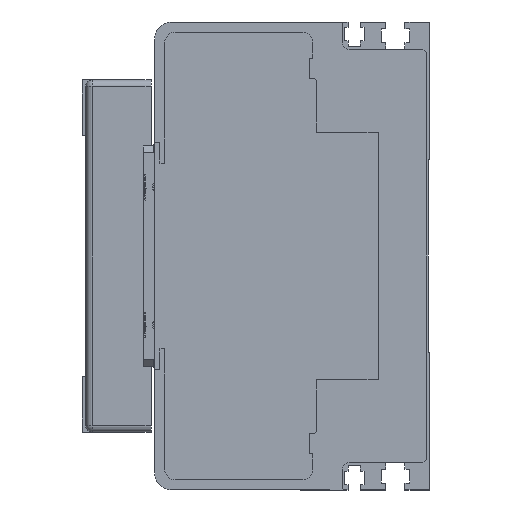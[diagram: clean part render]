
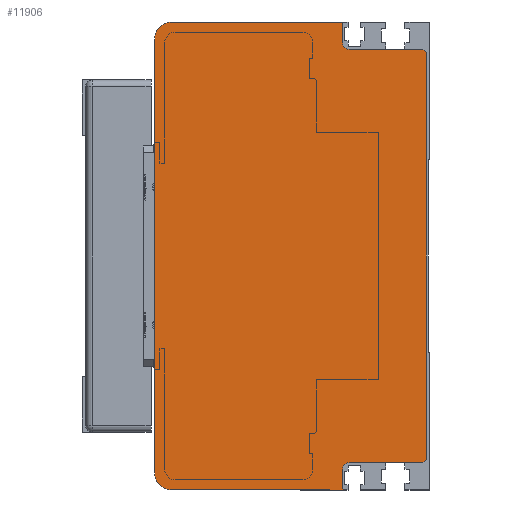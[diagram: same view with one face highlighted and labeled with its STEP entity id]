
A CAD part, left-side view. The second image highlights one B-rep face of the part: STEP entity #11906.
In plain terms, the highlighted planar face has unit normal (-1, 0, 0) as drawn and (0, 0, -1) by its records, which use the part's own axes.
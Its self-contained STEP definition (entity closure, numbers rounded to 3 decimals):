
#957=FACE_OUTER_BOUND('',#1678,.T.);
#1678=EDGE_LOOP('',(#8277,#8278,#8279,#8280,#8281,#8282,#8283,#8284,#8285,
#8286,#8287,#8288,#8289,#8290));
#2456=CIRCLE('',#12766,2.);
#2457=CIRCLE('',#12767,5.);
#2458=CIRCLE('',#12768,5.);
#2459=CIRCLE('',#12769,2.);
#2734=LINE('',#16943,#3877);
#2735=LINE('',#16945,#3878);
#2736=LINE('',#16947,#3879);
#2737=LINE('',#16949,#3880);
#2738=LINE('',#16953,#3881);
#2739=LINE('',#16955,#3882);
#2740=LINE('',#16959,#3883);
#2741=LINE('',#16963,#3884);
#2742=LINE('',#16965,#3885);
#2743=LINE('',#16968,#3886);
#3877=VECTOR('',#13969,1.414);
#3878=VECTOR('',#13970,118.);
#3879=VECTOR('',#13971,1.414);
#3880=VECTOR('',#13972,21.3);
#3881=VECTOR('',#13975,6.);
#3882=VECTOR('',#13976,49.7);
#3883=VECTOR('',#13979,126.);
#3884=VECTOR('',#13982,49.7);
#3885=VECTOR('',#13983,6.);
#3886=VECTOR('',#13986,21.3);
#5090=VERTEX_POINT('',#16941);
#5091=VERTEX_POINT('',#16942);
#5092=VERTEX_POINT('',#16944);
#5093=VERTEX_POINT('',#16946);
#5094=VERTEX_POINT('',#16948);
#5095=VERTEX_POINT('',#16950);
#5096=VERTEX_POINT('',#16952);
#5097=VERTEX_POINT('',#16954);
#5098=VERTEX_POINT('',#16956);
#5099=VERTEX_POINT('',#16958);
#5100=VERTEX_POINT('',#16960);
#5101=VERTEX_POINT('',#16962);
#5102=VERTEX_POINT('',#16964);
#5103=VERTEX_POINT('',#16966);
#6340=EDGE_CURVE('',#5090,#5091,#2734,.T.);
#6341=EDGE_CURVE('',#5090,#5092,#2735,.T.);
#6342=EDGE_CURVE('',#5093,#5092,#2736,.T.);
#6343=EDGE_CURVE('',#5093,#5094,#2737,.T.);
#6344=EDGE_CURVE('',#5095,#5094,#2456,.T.);
#6345=EDGE_CURVE('',#5095,#5096,#2738,.T.);
#6346=EDGE_CURVE('',#5096,#5097,#2739,.T.);
#6347=EDGE_CURVE('',#5097,#5098,#2457,.T.);
#6348=EDGE_CURVE('',#5098,#5099,#2740,.T.);
#6349=EDGE_CURVE('',#5099,#5100,#2458,.T.);
#6350=EDGE_CURVE('',#5100,#5101,#2741,.T.);
#6351=EDGE_CURVE('',#5101,#5102,#2742,.T.);
#6352=EDGE_CURVE('',#5103,#5102,#2459,.T.);
#6353=EDGE_CURVE('',#5103,#5091,#2743,.T.);
#8277=ORIENTED_EDGE('',*,*,#6340,.F.);
#8278=ORIENTED_EDGE('',*,*,#6341,.T.);
#8279=ORIENTED_EDGE('',*,*,#6342,.F.);
#8280=ORIENTED_EDGE('',*,*,#6343,.T.);
#8281=ORIENTED_EDGE('',*,*,#6344,.F.);
#8282=ORIENTED_EDGE('',*,*,#6345,.T.);
#8283=ORIENTED_EDGE('',*,*,#6346,.T.);
#8284=ORIENTED_EDGE('',*,*,#6347,.T.);
#8285=ORIENTED_EDGE('',*,*,#6348,.T.);
#8286=ORIENTED_EDGE('',*,*,#6349,.T.);
#8287=ORIENTED_EDGE('',*,*,#6350,.T.);
#8288=ORIENTED_EDGE('',*,*,#6351,.T.);
#8289=ORIENTED_EDGE('',*,*,#6352,.F.);
#8290=ORIENTED_EDGE('',*,*,#6353,.T.);
#11320=PLANE('',#12765);
#11906=ADVANCED_FACE('',(#957),#11320,.T.);
#12765=AXIS2_PLACEMENT_3D('',#16940,#13967,#13968);
#12766=AXIS2_PLACEMENT_3D('',#16951,#13973,#13974);
#12767=AXIS2_PLACEMENT_3D('',#16957,#13977,#13978);
#12768=AXIS2_PLACEMENT_3D('',#16961,#13980,#13981);
#12769=AXIS2_PLACEMENT_3D('',#16967,#13984,#13985);
#13967=DIRECTION('center_axis',(0.,0.,-1.));
#13968=DIRECTION('ref_axis',(0.,-1.,0.));
#13969=DIRECTION('',(0.707,0.707,0.));
#13970=DIRECTION('',(-1.,0.,0.));
#13971=DIRECTION('',(0.707,-0.707,0.));
#13972=DIRECTION('',(0.,1.,0.));
#13973=DIRECTION('center_axis',(0.,0.,-1.));
#13974=DIRECTION('ref_axis',(0.707,0.707,0.));
#13975=DIRECTION('',(-1.,0.,0.));
#13976=DIRECTION('',(0.,1.,0.));
#13977=DIRECTION('center_axis',(0.,0.,-1.));
#13978=DIRECTION('ref_axis',(-1.,0.,0.));
#13979=DIRECTION('',(1.,0.,0.));
#13980=DIRECTION('center_axis',(0.,0.,-1.));
#13981=DIRECTION('ref_axis',(0.,1.,0.));
#13982=DIRECTION('',(0.,-1.,0.));
#13983=DIRECTION('',(-1.,0.,0.));
#13984=DIRECTION('center_axis',(0.,0.,-1.));
#13985=DIRECTION('ref_axis',(-0.707,0.707,0.));
#13986=DIRECTION('',(0.,-1.,0.));
#16940=CARTESIAN_POINT('Origin',(-29.,-60.,-700.));
#16941=CARTESIAN_POINT('',(66.,-74.,-700.));
#16942=CARTESIAN_POINT('',(67.,-73.,-700.));
#16943=CARTESIAN_POINT('',(46.,-94.,-700.));
#16944=CARTESIAN_POINT('',(-52.,-74.,-700.));
#16945=CARTESIAN_POINT('',(-11.,-74.,-700.));
#16946=CARTESIAN_POINT('',(-53.,-73.,-700.));
#16947=CARTESIAN_POINT('',(-50.,-76.,-700.));
#16948=CARTESIAN_POINT('',(-53.,-51.7,-700.));
#16949=CARTESIAN_POINT('',(-53.,-67.,-700.));
#16950=CARTESIAN_POINT('',(-55.,-49.7,-700.));
#16951=CARTESIAN_POINT('Origin',(-55.,-51.7,-700.));
#16952=CARTESIAN_POINT('',(-61.,-49.7,-700.));
#16953=CARTESIAN_POINT('',(-41.,-49.7,-700.));
#16954=CARTESIAN_POINT('',(-61.,0.,-700.));
#16955=CARTESIAN_POINT('',(-61.,-51.25,-700.));
#16956=CARTESIAN_POINT('',(-56.,5.,-700.));
#16957=CARTESIAN_POINT('Origin',(-56.,0.,
-700.));
#16958=CARTESIAN_POINT('',(70.,5.,-700.));
#16959=CARTESIAN_POINT('',(-56.,5.,-700.));
#16960=CARTESIAN_POINT('',(75.,0.,-700.));
#16961=CARTESIAN_POINT('Origin',(70.,0.,
-700.));
#16962=CARTESIAN_POINT('',(75.,-49.7,-700.));
#16963=CARTESIAN_POINT('',(75.,0.,-700.));
#16964=CARTESIAN_POINT('',(69.,-49.7,-700.));
#16965=CARTESIAN_POINT('',(19.,-49.7,-700.));
#16966=CARTESIAN_POINT('',(67.,-51.7,-700.));
#16967=CARTESIAN_POINT('Origin',(69.,-51.7,-700.));
#16968=CARTESIAN_POINT('',(67.,-67.,-700.));
